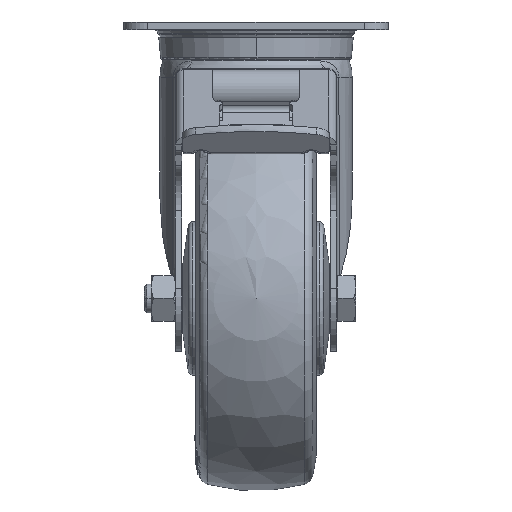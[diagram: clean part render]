
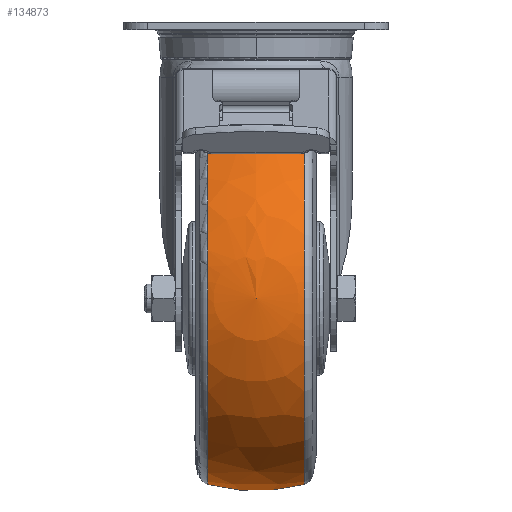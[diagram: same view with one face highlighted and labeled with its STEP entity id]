
A CAD part, top view. The second image highlights one B-rep face of the part: STEP entity #134873.
In plain terms, the highlighted spherical face has radius 80 mm.
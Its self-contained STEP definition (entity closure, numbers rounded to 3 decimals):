
#2541 = VERTEX_POINT ( 'NONE', #18849 ) ;
#9519 = AXIS2_PLACEMENT_3D ( 'NONE', #84402, #84892, #99865 ) ;
#18649 = EDGE_CURVE ( 'NONE', #101742, #81139, #144679, .T. ) ;
#18658 = DIRECTION ( 'NONE',  ( 0., 0., -1. ) ) ;
#18849 = CARTESIAN_POINT ( 'NONE',  ( -20.007, -77.458, 0. ) ) ;
#29405 = ORIENTED_EDGE ( 'NONE', *, *, #50986, .T. ) ;
#44246 = ORIENTED_EDGE ( 'NONE', *, *, #131123, .F. ) ;
#44313 = CIRCLE ( 'NONE', #80098, 80. ) ;
#44576 = CARTESIAN_POINT ( 'NONE',  ( 0., 0., 0. ) ) ;
#44899 = DIRECTION ( 'NONE',  ( 1., 0., 0. ) ) ;
#45211 = DIRECTION ( 'NONE',  ( 0., -1., 0. ) ) ;
#50986 = EDGE_CURVE ( 'NONE', #97032, #2541, #140995, .T. ) ;
#55982 = ORIENTED_EDGE ( 'NONE', *, *, #134169, .T. ) ;
#60305 = AXIS2_PLACEMENT_3D ( 'NONE', #147960, #113918, #45211 ) ;
#65890 = FACE_OUTER_BOUND ( 'NONE', #117523, .T. ) ;
#66912 = AXIS2_PLACEMENT_3D ( 'NONE', #44576, #146817, #100760 ) ;
#67634 = SPHERICAL_SURFACE ( 'NONE', #60305, 80. ) ;
#75114 = CARTESIAN_POINT ( 'NONE',  ( 20.007, -77.458, 0. ) ) ;
#80098 = AXIS2_PLACEMENT_3D ( 'NONE', #132886, #18658, #86777 ) ;
#81139 = VERTEX_POINT ( 'NONE', #75114 ) ;
#84402 = CARTESIAN_POINT ( 'NONE',  ( -20.007, 0., 0. ) ) ;
#84892 = DIRECTION ( 'NONE',  ( 1., 0., 0. ) ) ;
#86075 = CARTESIAN_POINT ( 'NONE',  ( 20.007, 77.458, 0. ) ) ;
#86777 = DIRECTION ( 'NONE',  ( -0.25, 0.968, 0. ) ) ;
#91080 = DIRECTION ( 'NONE',  ( 0., 1., 0. ) ) ;
#92501 = ORIENTED_EDGE ( 'NONE', *, *, #18649, .F. ) ;
#96566 = CIRCLE ( 'NONE', #66912, 80. ) ;
#97032 = VERTEX_POINT ( 'NONE', #118223 ) ;
#99865 = DIRECTION ( 'NONE',  ( 0., 1., 0. ) ) ;
#100760 = DIRECTION ( 'NONE',  ( -0.25, -0.968, 0. ) ) ;
#101742 = VERTEX_POINT ( 'NONE', #86075 ) ;
#102050 = CARTESIAN_POINT ( 'NONE',  ( 20.007, 0., 0. ) ) ;
#113918 = DIRECTION ( 'NONE',  ( 0., 0., 1. ) ) ;
#117523 = EDGE_LOOP ( 'NONE', ( #29405, #55982, #92501, #44246 ) ) ;
#118223 = CARTESIAN_POINT ( 'NONE',  ( -20.007, 77.458, 0. ) ) ;
#131123 = EDGE_CURVE ( 'NONE', #97032, #101742, #44313, .T. ) ;
#132886 = CARTESIAN_POINT ( 'NONE',  ( 0., 0., 0. ) ) ;
#134169 = EDGE_CURVE ( 'NONE', #2541, #81139, #96566, .T. ) ;
#134873 = ADVANCED_FACE ( 'NONE', ( #65890 ), #67634, .T. ) ;
#140995 = CIRCLE ( 'NONE', #9519, 77.458 ) ;
#144679 = CIRCLE ( 'NONE', #147041, 77.458 ) ;
#146817 = DIRECTION ( 'NONE',  ( 0., 0., 1. ) ) ;
#147041 = AXIS2_PLACEMENT_3D ( 'NONE', #102050, #44899, #91080 ) ;
#147960 = CARTESIAN_POINT ( 'NONE',  ( 0., 0., 0. ) ) ;
